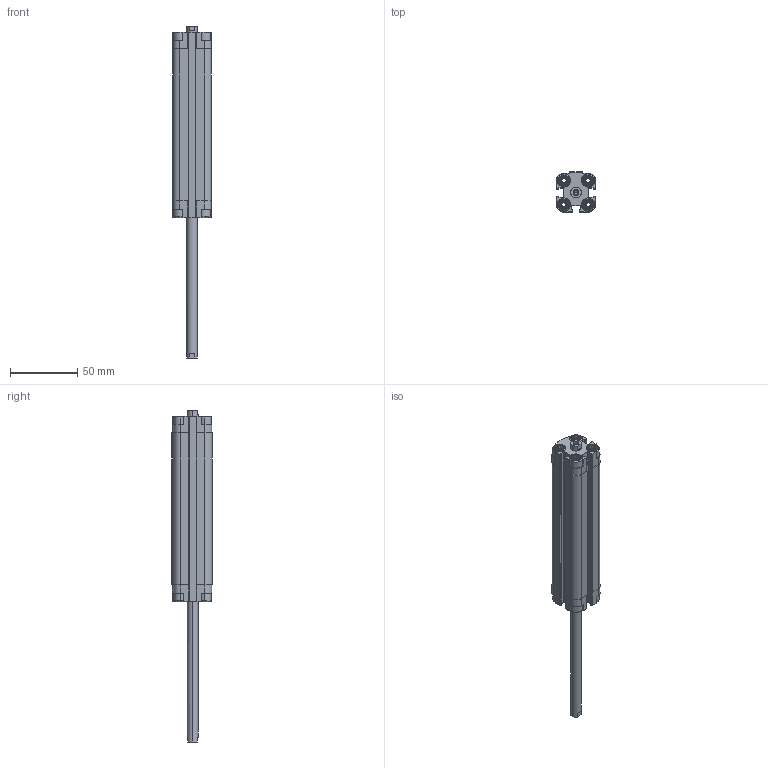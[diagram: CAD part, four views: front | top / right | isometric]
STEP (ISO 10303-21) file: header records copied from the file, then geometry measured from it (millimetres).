
FILE_DESCRIPTION (( 'STEP AP203' ), '1' );
FILE_NAME ('CDVU16-100F-P.STEP', '2020-07-24T18:05:48', ( '' ), ( '' ), 'SwSTEP 2.0', 'SolidWorks 2019', '' );
FILE_SCHEMA (( 'CONFIG_CONTROL_DESIGN' ));
Length unit declared in the file: millimetre
Products named in the file (1): CDVU16-100F-P
Bounding box: 29 x 30 x 247 mm (x, y, z)
Volume: 75867.2 mm3; surface area: 46013.2 mm2
Topology: 2 solids, 2 shells, 566 faces, 1508 edges, 980 vertices
Faces by surface type: plane 338, cylinder 164, cone 48, torus 16
Entity records: 17779 total; most frequent: CARTESIAN_POINT 3623, ORIENTED_EDGE 3000, DIRECTION 2850, EDGE_CURVE 1500, VERTEX_POINT 980, AXIS2_PLACEMENT_3D 975, LINE 900, VECTOR 900
